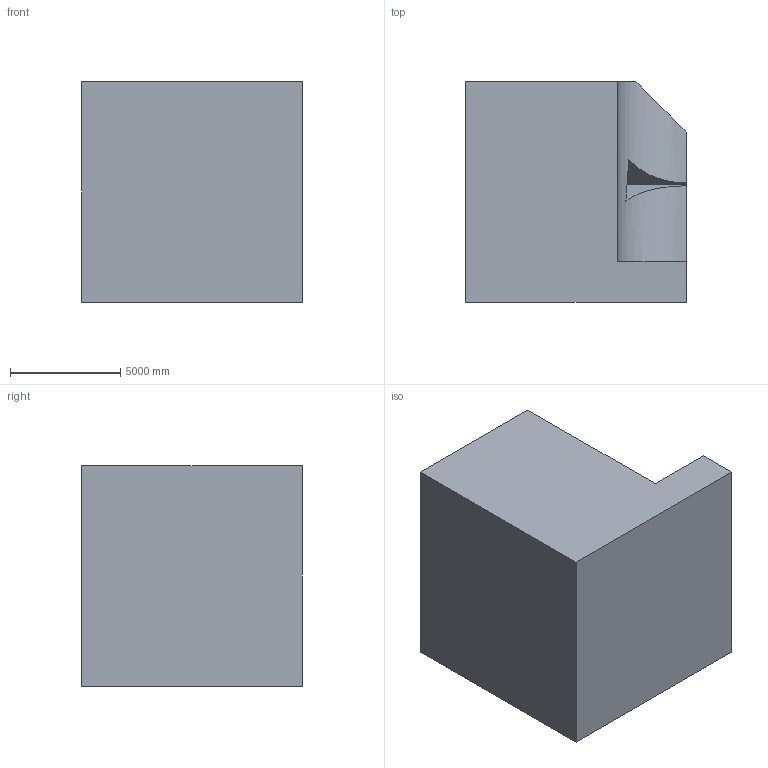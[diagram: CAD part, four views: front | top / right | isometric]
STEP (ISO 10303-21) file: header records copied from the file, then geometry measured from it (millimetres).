
FILE_DESCRIPTION (( 'STEP AP203' ), '1' );
FILE_NAME ('265.STEP', '2022-07-28T14:08:54', ( 'user' ), ( '' ), 'SwSTEP 2.0', 'SolidWorks 2021', '' );
FILE_SCHEMA (( 'CONFIG_CONTROL_DESIGN' ));
Length unit declared in the file: centimetre
Products named in the file (1): 265
Bounding box: 10000 x 10000 x 10000 mm (x, y, z)
Volume: 914167095925.6 mm3; surface area: 595416254.1 mm2
Topology: 1 solids, 1 shells, 13 faces, 33 edges, 22 vertices
Faces by surface type: plane 12, cylinder 1
Entity records: 466 total; most frequent: CARTESIAN_POINT 81, ORIENTED_EDGE 66, DIRECTION 59, EDGE_CURVE 33, LINE 27, VECTOR 27, VERTEX_POINT 22, AXIS2_PLACEMENT_3D 16
